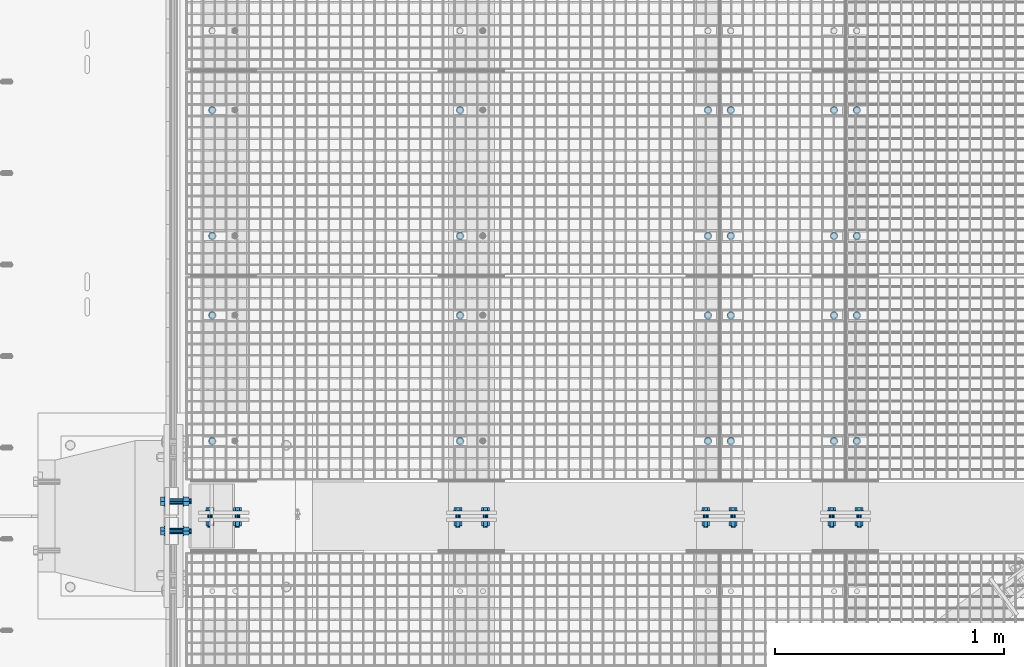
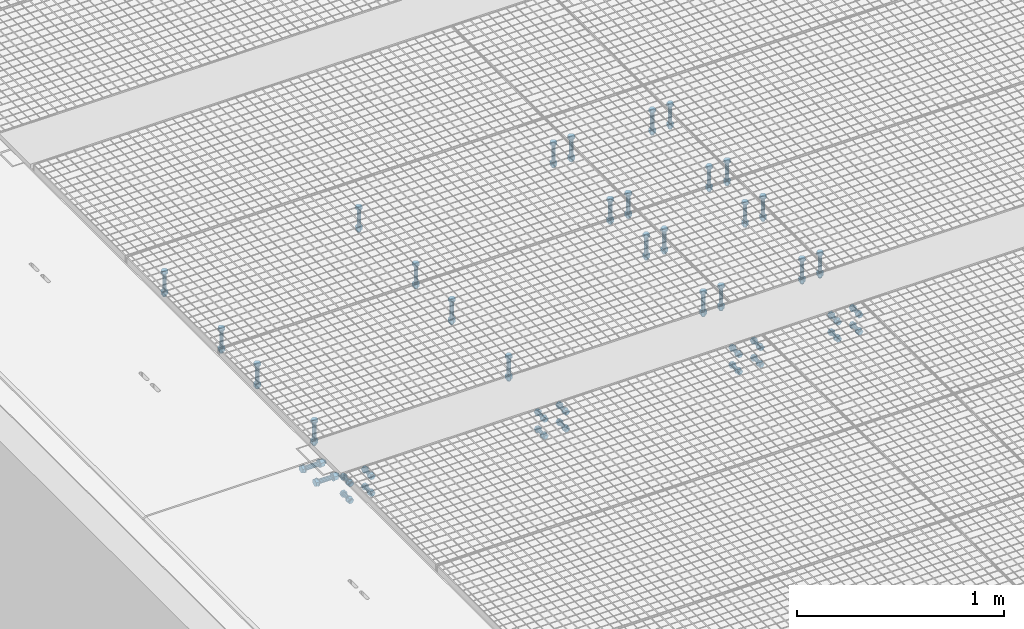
# One storey, part 12 of 1530: 18 mechanical fasteners.
"""IFC2X3 building model written with IfcOpenShell, lengths in millimetres."""

from ifc_helpers import new_model, si_unit, frame, origin_with_axes, place, context, subcontext, project, spatial, faceted_brep, source, transform, mapped, material, type_object, element, save


model = new_model("IFC2X3")

# Units and contexts
model_context = context("Model", 3, precision=1e-05, world=origin_with_axes())
body_context = subcontext(model_context, "Body", "Model", "MODEL_VIEW")
ifc_project = project(units=[si_unit("LENGTHUNIT", "METRE", prefix="MILLI"), si_unit("AREAUNIT", "SQUARE_METRE"), si_unit("VOLUMEUNIT", "CUBIC_METRE"), si_unit("MASSUNIT", "GRAM", prefix="KILO"), si_unit("TIMEUNIT", "SECOND"), si_unit("PLANEANGLEUNIT", "RADIAN"), si_unit("SOLIDANGLEUNIT", "STERADIAN"), si_unit("THERMODYNAMICTEMPERATUREUNIT", "DEGREE_CELSIUS"), si_unit("LUMINOUSINTENSITYUNIT", "LUMEN")], contexts=[model_context])

# Site, building, storey
site_placement = place(None, origin_with_axes())
site = spatial("IfcSite", under=ifc_project, at=site_placement, Name="Brattvåg", CompositionType="ELEMENT")
building_placement = place(site_placement, origin_with_axes())
building = spatial("IfcBuilding", under=site, at=building_placement, Name="Undefined", CompositionType="ELEMENT")
storey_placement = place(building_placement, origin_with_axes())
storey = spatial("IfcBuildingStorey", under=building, at=storey_placement, Name="Undefined", CompositionType="ELEMENT", Elevation=0.0)

# Mechanical fasteners
ifc_material = material(Name="8")
mechanical_fastener_type = type_object("IfcMechanicalFastenerType", Name="Bolt assembly")
shared_shape_1 = source(origin_with_axes(), body_context, "Body", "Brep", [
    faceted_brep([(17.3205080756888, -10.5, 0.0), (8.66025403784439, -10.5, 15.0), (-8.66025403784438, -10.5, 15.0), (-17.3205080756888, -10.5, 2.12115047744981e-15), (-8.66025403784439, -10.5, -15.0), (8.66025403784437, -10.5, -15.0), (8.66025403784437, 2.0, -15.0), (-8.66025403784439, 2.0, -15.0), (-17.3205080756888, 2.0, 2.12115047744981e-15), (-8.66025403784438, 2.0, 15.0), (8.66025403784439, 2.0, 15.0), (17.3205080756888, 2.0, 0.0), (10.0, 2.0, 0.0), (8.66025403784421, 2.0, 5.0000000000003), (4.9999999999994, 2.0, 8.66025403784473), (-1.03633598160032e-12, 2.0, 10.0), (-5.00000000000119, 2.0, 8.6602540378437), (-8.66025403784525, 2.0, 4.99999999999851), (-10.0, 2.0, -2.07267196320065e-12), (-8.66025403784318, 2.0, -5.00000000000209), (-4.99999999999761, 2.0, -8.66025403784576), (3.09790571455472e-12, 2.0, -10.0), (5.00000000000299, 2.0, -8.66025403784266), (8.66025403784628, 2.0, -4.99999999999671), (8.66025403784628, 142.0, -4.99999999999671), (5.00000000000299, 142.0, -8.66025403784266), (3.09790571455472e-12, 142.0, -10.0), (-4.99999999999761, 142.0, -8.66025403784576), (-8.66025403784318, 142.0, -5.00000000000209), (-10.0, 142.0, -2.07267196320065e-12), (-8.66025403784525, 142.0, 4.99999999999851), (-5.00000000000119, 142.0, 8.6602540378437), (-1.03633598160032e-12, 142.0, 10.0), (4.9999999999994, 142.0, 8.66025403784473), (8.66025403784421, 142.0, 5.0000000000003), (10.0, 142.0, 0.0), (18.5, 2.0, 0.0), (16.0214699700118, 2.0, 9.25000000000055), (9.2499999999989, 2.0, 16.0214699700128), (-1.9172215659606e-12, 2.0, 18.5), (-9.25000000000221, 2.0, 16.0214699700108), (-16.0214699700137, 2.0, 9.24999999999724), (-18.5, 2.0, -3.83444313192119e-12), (-16.0214699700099, 2.0, -9.25000000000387), (-9.24999999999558, 2.0, -16.0214699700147), (5.73112557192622e-12, 2.0, -18.5), (9.25000000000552, 2.0, -16.0214699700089), (16.0214699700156, 2.0, -9.24999999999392), (16.0214699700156, 5.0, -9.24999999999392), (9.25000000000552, 5.0, -16.0214699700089), (5.73112557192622e-12, 5.0, -18.5), (-9.24999999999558, 5.0, -16.0214699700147), (-16.0214699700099, 5.0, -9.25000000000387), (-18.5, 5.0, -3.83444313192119e-12), (-16.0214699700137, 5.0, 9.24999999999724), (-9.25000000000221, 5.0, 16.0214699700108), (-1.9172215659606e-12, 5.0, 18.5), (9.2499999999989, 5.0, 16.0214699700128), (16.0214699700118, 5.0, 9.25000000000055), (18.5, 5.0, 0.0), (18.5, 109.998931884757, 0.0), (16.0214699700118, 109.998931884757, 9.25000000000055), (9.2499999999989, 109.998931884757, 16.0214699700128), (-1.9172215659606e-12, 109.998931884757, 18.5), (-9.25000000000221, 109.998931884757, 16.0214699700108), (-16.0214699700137, 109.998931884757, 9.24999999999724), (-18.5, 109.998931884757, -3.83444313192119e-12), (-16.0214699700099, 109.998931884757, -9.25000000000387), (-9.24999999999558, 109.998931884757, -16.0214699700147), (5.73112557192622e-12, 109.998931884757, -18.5), (9.25000000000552, 109.998931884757, -16.0214699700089), (16.0214699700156, 109.998931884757, -9.24999999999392), (16.0214699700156, 112.998931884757, -9.24999999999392), (9.25000000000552, 112.998931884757, -16.0214699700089), (5.73112557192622e-12, 112.998931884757, -18.5), (-9.24999999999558, 112.998931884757, -16.0214699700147), (-16.0214699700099, 112.998931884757, -9.25000000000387), (-18.5, 112.998931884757, -3.83444313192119e-12), (-16.0214699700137, 112.998931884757, 9.24999999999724), (-9.25000000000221, 112.998931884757, 16.0214699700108), (-1.9172215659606e-12, 112.998931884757, 18.5), (9.2499999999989, 112.998931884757, 16.0214699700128), (16.0214699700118, 112.998931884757, 9.25000000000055), (18.5, 112.998931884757, 0.0), (17.3205080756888, 112.998931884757, 0.0), (8.66025403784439, 112.998931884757, 15.0), (-8.66025403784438, 112.998931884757, 15.0), (-17.3205080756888, 112.998931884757, 2.12115047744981e-15), (-8.66025403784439, 112.998931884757, -15.0), (8.66025403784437, 112.998931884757, -15.0), (8.66025403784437, 130.998931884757, -15.0), (-8.66025403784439, 130.998931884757, -15.0), (-17.3205080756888, 130.998931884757, 2.12115047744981e-15), (-8.66025403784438, 130.998931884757, 15.0), (8.66025403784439, 130.998931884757, 15.0), (17.3205080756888, 130.998931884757, 0.0)], [[[0, 1, 2, 3, 4, 5]], [[6, 7, 8, 9, 10, 11]], [[0, 11, 10, 1]], [[1, 10, 9, 2]], [[2, 9, 8, 3]], [[3, 8, 7, 4]], [[4, 7, 6, 5]], [[5, 6, 11, 0]], [[12, 13, 14, 15, 16, 17, 18, 19, 20, 21, 22, 23]], [[24, 25, 26, 27, 28, 29, 30, 31, 32, 33, 34, 35]], [[12, 35, 34, 13]], [[13, 34, 33, 14]], [[14, 33, 32, 15]], [[15, 32, 31, 16]], [[16, 31, 30, 17]], [[17, 30, 29, 18]], [[18, 29, 28, 19]], [[19, 28, 27, 20]], [[20, 27, 26, 21]], [[21, 26, 25, 22]], [[22, 25, 24, 23]], [[23, 24, 35, 12]], [[36, 37, 38, 39, 40, 41, 42, 43, 44, 45, 46, 47]], [[48, 49, 50, 51, 52, 53, 54, 55, 56, 57, 58, 59]], [[36, 59, 58, 37]], [[37, 58, 57, 38]], [[38, 57, 56, 39]], [[39, 56, 55, 40]], [[40, 55, 54, 41]], [[41, 54, 53, 42]], [[42, 53, 52, 43]], [[43, 52, 51, 44]], [[44, 51, 50, 45]], [[45, 50, 49, 46]], [[46, 49, 48, 47]], [[47, 48, 59, 36]], [[60, 61, 62, 63, 64, 65, 66, 67, 68, 69, 70, 71]], [[72, 73, 74, 75, 76, 77, 78, 79, 80, 81, 82, 83]], [[60, 83, 82, 61]], [[61, 82, 81, 62]], [[62, 81, 80, 63]], [[63, 80, 79, 64]], [[64, 79, 78, 65]], [[65, 78, 77, 66]], [[66, 77, 76, 67]], [[67, 76, 75, 68]], [[68, 75, 74, 69]], [[69, 74, 73, 70]], [[70, 73, 72, 71]], [[71, 72, 83, 60]], [[84, 85, 86, 87, 88, 89]], [[90, 91, 92, 93, 94, 95]], [[84, 95, 94, 85]], [[85, 94, 93, 86]], [[86, 93, 92, 87]], [[87, 92, 91, 88]], [[88, 91, 90, 89]], [[89, 90, 95, 84]]]),
])
for number, where, z_axis, x_axis, name in (
    (1, (2956.00477935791, 4224.91931152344, -25.0), (-1.0, 1.99999855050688e-09, 0.0), (0.0, 1.0, 0.0), "Bolt assembly"),
    (2, (2956.00477935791, 3327.91931152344, -25.0), (-1.0, 1.99999855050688e-09, 0.0), (0.0, 1.0, 0.0), "Bolt assembly"),
    (3, (2856.01522064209, 4224.91931152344, -25.0), (-1.0, 1.99999855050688e-09, 0.0), (0.0, 1.0, 0.0), "Bolt assembly"),
    (4, (2405.00477935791, 4224.91931152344, -25.0), (-1.0, 1.99999855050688e-09, 0.0), (0.0, 1.0, 0.0), "Bolt assembly"),
    (5, (2856.01522064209, 3327.91931152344, -25.0), (-1.0, 1.99999855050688e-09, 0.0), (0.0, 1.0, 0.0), "Bolt assembly"),
    (6, (2405.00477935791, 3327.91931152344, -25.0), (-1.0, 1.99999855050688e-09, 0.0), (0.0, 1.0, 0.0), "Bolt assembly"),
    (7, (137.004779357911, 4224.91931152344, -25.0), (-1.0, 1.99999855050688e-09, 0.0), (0.0, 1.0, 0.0), "Bolt assembly"),
    (8, (1221.01192543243, 4224.99, -25.0), (-1.0, 1.99999855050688e-09, 0.0), (0.0, 1.0, 0.0), "Bolt assembly"),
    (9, (2305.01487731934, 4224.9204864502, -25.0), (-1.0, 1.99999855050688e-09, 0.0), (0.0, 1.0, 0.0), "Bolt assembly"),
    (10, (137.004779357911, 3327.91931152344, -25.0), (-1.0, 1.99999855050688e-09, 0.0), (0.0, 1.0, 0.0), "Bolt assembly"),
    (11, (1221.01192543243, 3327.99, -25.0), (-1.0, 1.99999855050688e-09, 0.0), (0.0, 1.0, 0.0), "Bolt assembly"),
    (12, (2305.01487731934, 3327.9204864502, -25.0), (-1.0, 1.99999855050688e-09, 0.0), (0.0, 1.0, 0.0), "Bolt assembly"),
):
    element("IfcMechanicalFastener", number, at=place(storey_placement, frame(where, z_axis=z_axis, x_axis=x_axis)), inside=storey, type_object=mechanical_fastener_type, material=ifc_material, Name=name, NominalDiameter=20.0, NominalLength=140.0, context=body_context, shape_type="MappedRepresentation", body=[
        mapped(shared_shape_1, transform((0.0, 0.0, 0.0))),
        mapped(shared_shape_1, transform((549.999999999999, 0.0, 0.0))),
    ])
shared_shape_2 = source(origin_with_axes(), body_context, "Body", "Brep", [
    faceted_brep([(20.7846096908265, -19.0, 0.0), (10.3923048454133, -19.0, 18.0), (-10.3923048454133, -19.0, 18.0), (-20.7846096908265, -19.0, 2.54538057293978e-15), (-10.3923048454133, -19.0, -18.0), (10.3923048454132, -19.0, -18.0), (10.3923048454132, -4.0, -18.0), (-10.3923048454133, -4.0, -18.0), (-20.7846096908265, -4.0, 2.54538057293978e-15), (-10.3923048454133, -4.0, 18.0), (10.3923048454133, -4.0, 18.0), (20.7846096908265, -4.0, 0.0), (12.0, -4.0, 0.0), (10.3923048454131, -4.0, 6.00000000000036), (5.99999999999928, -4.0, 10.3923048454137), (-1.24360317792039e-12, -4.0, 12.0), (-6.00000000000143, -4.0, 10.3923048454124), (-10.3923048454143, -4.0, 5.99999999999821), (-12.0, -4.0, -2.48720635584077e-12), (-10.3923048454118, -4.0, -6.00000000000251), (-5.99999999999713, -4.0, -10.3923048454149), (3.71748685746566e-12, -4.0, -12.0), (6.00000000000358, -4.0, -10.3923048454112), (10.3923048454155, -4.0, -5.99999999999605), (10.3923048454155, 115.999999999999, -5.99999999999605), (6.00000000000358, 115.999999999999, -10.3923048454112), (3.71748685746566e-12, 115.999999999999, -12.0), (-5.99999999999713, 115.999999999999, -10.3923048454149), (-10.3923048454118, 115.999999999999, -6.00000000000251), (-12.0, 115.999999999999, -2.48720635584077e-12), (-10.3923048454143, 115.999999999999, 5.99999999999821), (-6.00000000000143, 115.999999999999, 10.3923048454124), (-1.24360317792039e-12, 115.999999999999, 12.0), (5.99999999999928, 115.999999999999, 10.3923048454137), (10.3923048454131, 115.999999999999, 6.00000000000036), (12.0, 115.999999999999, 0.0), (22.0, -4.0, 0.0), (19.0525588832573, -4.0, 11.0000000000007), (10.9999999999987, -4.0, 19.0525588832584), (-2.27993915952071e-12, -4.0, 22.0), (-11.0000000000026, -4.0, 19.0525588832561), (-19.0525588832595, -4.0, 10.9999999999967), (-22.0, -4.0, -4.55987831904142e-12), (-19.052558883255, -4.0, -11.0000000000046), (-10.9999999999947, -4.0, -19.0525588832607), (6.81539257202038e-12, -4.0, -22.0), (11.0000000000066, -4.0, -19.0525588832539), (19.0525588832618, -4.0, -10.9999999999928), (19.0525588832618, 0.0, -10.9999999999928), (11.0000000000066, 0.0, -19.0525588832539), (6.81539257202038e-12, 0.0, -22.0), (-10.9999999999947, 0.0, -19.0525588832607), (-19.052558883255, 0.0, -11.0000000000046), (-22.0, 0.0, -4.55987831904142e-12), (-19.0525588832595, 0.0, 10.9999999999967), (-11.0000000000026, 0.0, 19.0525588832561), (-2.27993915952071e-12, 0.0, 22.0), (10.9999999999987, 0.0, 19.0525588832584), (19.0525588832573, 0.0, 11.0000000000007), (22.0, 0.0, 0.0), (22.0, 80.0044371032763, 0.0), (19.0525588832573, 80.0044371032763, 11.0000000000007), (10.9999999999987, 80.0044371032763, 19.0525588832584), (-2.27993915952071e-12, 80.0044371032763, 22.0), (-11.0000000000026, 80.0044371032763, 19.0525588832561), (-19.0525588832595, 80.0044371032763, 10.9999999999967), (-22.0, 80.0044371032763, -4.55987831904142e-12), (-19.052558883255, 80.0044371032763, -11.0000000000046), (-10.9999999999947, 80.0044371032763, -19.0525588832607), (6.81539257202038e-12, 80.0044371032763, -22.0), (11.0000000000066, 80.0044371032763, -19.0525588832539), (19.0525588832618, 80.0044371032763, -10.9999999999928), (19.0525588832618, 84.0044371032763, -10.9999999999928), (11.0000000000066, 84.0044371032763, -19.0525588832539), (6.81539257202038e-12, 84.0044371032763, -22.0), (-10.9999999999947, 84.0044371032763, -19.0525588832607), (-19.052558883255, 84.0044371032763, -11.0000000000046), (-22.0, 84.0044371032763, -4.55987831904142e-12), (-19.0525588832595, 84.0044371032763, 10.9999999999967), (-11.0000000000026, 84.0044371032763, 19.0525588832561), (-2.27993915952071e-12, 84.0044371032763, 22.0), (10.9999999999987, 84.0044371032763, 19.0525588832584), (19.0525588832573, 84.0044371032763, 11.0000000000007), (22.0, 84.0044371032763, 0.0), (20.7846096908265, 84.0044371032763, 0.0), (10.3923048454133, 84.0044371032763, 18.0), (-10.3923048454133, 84.0044371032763, 18.0), (-20.7846096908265, 84.0044371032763, 2.54538057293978e-15), (-10.3923048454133, 84.0044371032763, -18.0), (10.3923048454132, 84.0044371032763, -18.0), (10.3923048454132, 105.504437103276, -18.0), (-10.3923048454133, 105.504437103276, -18.0), (-20.7846096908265, 105.504437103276, 2.54538057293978e-15), (-10.3923048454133, 105.504437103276, 18.0), (10.3923048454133, 105.504437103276, 18.0), (20.7846096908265, 105.504437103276, 0.0)], [[[0, 1, 2, 3, 4, 5]], [[6, 7, 8, 9, 10, 11]], [[0, 11, 10, 1]], [[1, 10, 9, 2]], [[2, 9, 8, 3]], [[3, 8, 7, 4]], [[4, 7, 6, 5]], [[5, 6, 11, 0]], [[12, 13, 14, 15, 16, 17, 18, 19, 20, 21, 22, 23]], [[24, 25, 26, 27, 28, 29, 30, 31, 32, 33, 34, 35]], [[12, 35, 34, 13]], [[13, 34, 33, 14]], [[14, 33, 32, 15]], [[15, 32, 31, 16]], [[16, 31, 30, 17]], [[17, 30, 29, 18]], [[18, 29, 28, 19]], [[19, 28, 27, 20]], [[20, 27, 26, 21]], [[21, 26, 25, 22]], [[22, 25, 24, 23]], [[23, 24, 35, 12]], [[36, 37, 38, 39, 40, 41, 42, 43, 44, 45, 46, 47]], [[48, 49, 50, 51, 52, 53, 54, 55, 56, 57, 58, 59]], [[36, 59, 58, 37]], [[37, 58, 57, 38]], [[38, 57, 56, 39]], [[39, 56, 55, 40]], [[40, 55, 54, 41]], [[41, 54, 53, 42]], [[42, 53, 52, 43]], [[43, 52, 51, 44]], [[44, 51, 50, 45]], [[45, 50, 49, 46]], [[46, 49, 48, 47]], [[47, 48, 59, 36]], [[60, 61, 62, 63, 64, 65, 66, 67, 68, 69, 70, 71]], [[72, 73, 74, 75, 76, 77, 78, 79, 80, 81, 82, 83]], [[60, 83, 82, 61]], [[61, 82, 81, 62]], [[62, 81, 80, 63]], [[63, 80, 79, 64]], [[64, 79, 78, 65]], [[65, 78, 77, 66]], [[66, 77, 76, 67]], [[67, 76, 75, 68]], [[68, 75, 74, 69]], [[69, 74, 73, 70]], [[70, 73, 72, 71]], [[71, 72, 83, 60]], [[84, 85, 86, 87, 88, 89]], [[90, 91, 92, 93, 94, 95]], [[84, 95, 94, 85]], [[85, 94, 93, 86]], [[86, 93, 92, 87]], [[87, 92, 91, 88]], [[88, 91, 90, 89]], [[89, 90, 95, 84]]]),
    faceted_brep([(13.0, 0.0999999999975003, 0.0), (11.2583302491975, 0.0999999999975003, 6.50000000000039), (6.49999999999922, 0.0999999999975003, 11.2583302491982), (-1.34723677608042e-12, 0.0999999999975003, 13.0), (-6.50000000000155, 0.0999999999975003, 11.2583302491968), (-11.2583302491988, 0.0999999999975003, 6.49999999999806), (-13.0, 0.0999999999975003, -2.69447355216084e-12), (-11.2583302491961, 0.0999999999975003, -6.50000000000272), (-6.4999999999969, 0.0999999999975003, -11.2583302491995), (4.02727742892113e-12, 0.0999999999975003, -13.0), (6.50000000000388, 0.0999999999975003, -11.2583302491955), (11.2583302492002, 0.0999999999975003, -6.49999999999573), (11.2583302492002, 20.0999999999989, -6.49999999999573), (6.50000000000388, 20.0999999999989, -11.2583302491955), (4.02727742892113e-12, 20.0999999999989, -13.0), (-6.4999999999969, 20.0999999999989, -11.2583302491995), (-11.2583302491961, 20.0999999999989, -6.50000000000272), (-13.0, 20.0999999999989, -2.69447355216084e-12), (-11.2583302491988, 20.0999999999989, 6.49999999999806), (-6.50000000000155, 20.0999999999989, 11.2583302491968), (-1.34723677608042e-12, 20.0999999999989, 13.0), (6.49999999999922, 20.0999999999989, 11.2583302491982), (11.2583302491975, 20.0999999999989, 6.50000000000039), (13.0, 20.0999999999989, 0.0), (13.0, 20.0048739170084, 0.0), (11.2583302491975, 20.0048739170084, 6.50000000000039), (6.49999999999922, 20.0048739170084, 11.2583302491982), (-1.34723677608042e-12, 20.0048739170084, 13.0), (-6.50000000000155, 20.0048739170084, 11.2583302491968), (-11.2583302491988, 20.0048739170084, 6.49999999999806), (-13.0, 20.0048739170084, -2.69447355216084e-12), (-11.2583302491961, 20.0048739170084, -6.50000000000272), (-6.4999999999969, 20.0048739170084, -11.2583302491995), (4.02727742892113e-12, 20.0048739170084, -13.0), (6.50000000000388, 20.0048739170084, -11.2583302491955), (11.2583302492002, 20.0048739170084, -6.49999999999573), (11.2583302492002, 50.0048739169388, -6.49999999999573), (6.50000000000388, 50.0048739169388, -11.2583302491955), (4.02727742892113e-12, 50.0048739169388, -13.0), (-6.4999999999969, 50.0048739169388, -11.2583302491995), (-11.2583302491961, 50.0048739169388, -6.50000000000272), (-13.0, 50.0048739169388, -2.69447355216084e-12), (-11.2583302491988, 50.0048739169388, 6.49999999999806), (-6.50000000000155, 50.0048739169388, 11.2583302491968), (-1.34723677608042e-12, 50.0048739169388, 13.0), (6.49999999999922, 50.0048739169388, 11.2583302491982), (11.2583302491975, 50.0048739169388, 6.50000000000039), (13.0, 50.0048739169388, 0.0), (13.0, 49.9044371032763, 0.0), (11.2583302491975, 49.9044371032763, 6.50000000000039), (6.49999999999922, 49.9044371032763, 11.2583302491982), (-1.34723677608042e-12, 49.9044371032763, 13.0), (-6.50000000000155, 49.9044371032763, 11.2583302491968), (-11.2583302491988, 49.9044371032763, 6.49999999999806), (-13.0, 49.9044371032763, -2.69447355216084e-12), (-11.2583302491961, 49.9044371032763, -6.50000000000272), (-6.4999999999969, 49.9044371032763, -11.2583302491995), (4.02727742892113e-12, 49.9044371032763, -13.0), (6.50000000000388, 49.9044371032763, -11.2583302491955), (11.2583302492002, 49.9044371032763, -6.49999999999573), (11.2583302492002, 80.0044371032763, -6.49999999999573), (6.50000000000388, 80.0044371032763, -11.2583302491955), (4.02727742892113e-12, 80.0044371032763, -13.0), (-6.4999999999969, 80.0044371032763, -11.2583302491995), (-11.2583302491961, 80.0044371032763, -6.50000000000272), (-13.0, 80.0044371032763, -2.69447355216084e-12), (-11.2583302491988, 80.0044371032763, 6.49999999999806), (-6.50000000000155, 80.0044371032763, 11.2583302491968), (-1.34723677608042e-12, 80.0044371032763, 13.0), (6.49999999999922, 80.0044371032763, 11.2583302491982), (11.2583302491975, 80.0044371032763, 6.50000000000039), (13.0, 80.0044371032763, 0.0)], [[[0, 1, 2, 3, 4, 5, 6, 7, 8, 9, 10, 11]], [[12, 13, 14, 15, 16, 17, 18, 19, 20, 21, 22, 23]], [[0, 23, 22, 1]], [[1, 22, 21, 2]], [[2, 21, 20, 3]], [[3, 20, 19, 4]], [[4, 19, 18, 5]], [[5, 18, 17, 6]], [[6, 17, 16, 7]], [[7, 16, 15, 8]], [[8, 15, 14, 9]], [[9, 14, 13, 10]], [[10, 13, 12, 11]], [[11, 12, 23, 0]], [[24, 25, 26, 27, 28, 29, 30, 31, 32, 33, 34, 35]], [[36, 37, 38, 39, 40, 41, 42, 43, 44, 45, 46, 47]], [[24, 47, 46, 25]], [[25, 46, 45, 26]], [[26, 45, 44, 27]], [[27, 44, 43, 28]], [[28, 43, 42, 29]], [[29, 42, 41, 30]], [[30, 41, 40, 31]], [[31, 40, 39, 32]], [[32, 39, 38, 33]], [[33, 38, 37, 34]], [[34, 37, 36, 35]], [[35, 36, 47, 24]], [[48, 49, 50, 51, 52, 53, 54, 55, 56, 57, 58, 59]], [[60, 61, 62, 63, 64, 65, 66, 67, 68, 69, 70, 71]], [[48, 71, 70, 49]], [[49, 70, 69, 50]], [[50, 69, 68, 51]], [[51, 68, 67, 52]], [[52, 67, 66, 53]], [[53, 66, 65, 54]], [[54, 65, 64, 55]], [[55, 64, 63, 56]], [[56, 63, 62, 57]], [[57, 62, 61, 58]], [[58, 61, 60, 59]], [[59, 60, 71, 48]]]),
])
for number, where, z_axis, x_axis, name in (
    (13, (-70.0046011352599, 3064.99743433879, -75.0011876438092), (0.0, 0.999999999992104, 3.97399998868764e-06), (0.0, -3.97399998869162e-06, 0.999999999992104), "Bolt assembly"),
    (14, (-70.0046011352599, 2934.99743433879, -75.0011876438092), (0.0, 0.999999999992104, 3.97399998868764e-06), (0.0, -3.97399998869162e-06, 0.999999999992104), "Bolt assembly"),
):
    element("IfcMechanicalFastener", number, at=place(storey_placement, frame(where, z_axis=z_axis, x_axis=x_axis)), inside=storey, type_object=mechanical_fastener_type, material=ifc_material, Name=name, NominalDiameter=24.0, NominalLength=120.0, context=body_context, shape_type="MappedRepresentation", body=[
        mapped(shared_shape_2, transform((0.0, 0.0, 0.0))),
    ])
shared_shape_3 = source(origin_with_axes(), body_context, "Body", "Brep", [
    faceted_brep([(17.3205080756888, -15.5000000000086, 0.0), (8.66025403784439, -15.5000000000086, 15.0), (-8.66025403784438, -15.5000000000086, 15.0), (-17.3205080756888, -15.5000000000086, 2.12115047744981e-15), (-8.66025403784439, -15.5000000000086, -15.0), (8.66025403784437, -15.5000000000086, -15.0), (8.66025403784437, -3.00000000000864, -15.0), (-8.66025403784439, -3.00000000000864, -15.0), (-17.3205080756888, -3.00000000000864, 2.12115047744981e-15), (-8.66025403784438, -3.00000000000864, 15.0), (8.66025403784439, -3.00000000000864, 15.0), (17.3205080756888, -3.00000000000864, 0.0), (10.0, -3.00000000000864, 0.0), (8.66025403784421, -3.00000000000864, 5.0000000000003), (4.9999999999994, -3.00000000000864, 8.66025403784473), (-1.03633598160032e-12, -3.00000000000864, 10.0), (-5.00000000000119, -3.00000000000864, 8.6602540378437), (-8.66025403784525, -3.00000000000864, 4.99999999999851), (-10.0, -3.00000000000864, -2.07267196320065e-12), (-8.66025403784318, -3.00000000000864, -5.00000000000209), (-4.99999999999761, -3.00000000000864, -8.66025403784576), (3.09790571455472e-12, -3.00000000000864, -10.0), (5.00000000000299, -3.00000000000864, -8.66025403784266), (8.66025403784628, -3.00000000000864, -4.99999999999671), (8.66025403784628, 72.0, -4.99999999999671), (5.00000000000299, 72.0, -8.66025403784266), (3.09790571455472e-12, 72.0, -10.0), (-4.99999999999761, 72.0, -8.66025403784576), (-8.66025403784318, 72.0, -5.00000000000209), (-10.0, 72.0, -2.07267196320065e-12), (-8.66025403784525, 72.0, 4.99999999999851), (-5.00000000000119, 72.0, 8.6602540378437), (-1.03633598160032e-12, 72.0, 10.0), (4.9999999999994, 72.0, 8.66025403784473), (8.66025403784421, 72.0, 5.0000000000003), (10.0, 72.0, 0.0), (18.5, -3.00000000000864, 0.0), (16.0214699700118, -3.00000000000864, 9.25000000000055), (9.2499999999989, -3.00000000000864, 16.0214699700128), (-1.9172215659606e-12, -3.00000000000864, 18.5), (-9.25000000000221, -3.00000000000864, 16.0214699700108), (-16.0214699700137, -3.00000000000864, 9.24999999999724), (-18.5, -3.00000000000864, -3.83444313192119e-12), (-16.0214699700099, -3.00000000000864, -9.25000000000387), (-9.24999999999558, -3.00000000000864, -16.0214699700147), (5.73112557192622e-12, -3.00000000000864, -18.5), (9.25000000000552, -3.00000000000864, -16.0214699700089), (16.0214699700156, -3.00000000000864, -9.24999999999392), (16.0214699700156, -8.64019966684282e-12, -9.24999999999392), (9.25000000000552, -8.64019966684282e-12, -16.0214699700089), (5.73112557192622e-12, -8.64019966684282e-12, -18.5), (-9.24999999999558, -8.64019966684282e-12, -16.0214699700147), (-16.0214699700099, -8.64019966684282e-12, -9.25000000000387), (-18.5, -8.64019966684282e-12, -3.83444313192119e-12), (-16.0214699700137, -8.64019966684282e-12, 9.24999999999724), (-9.25000000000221, -8.64019966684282e-12, 16.0214699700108), (-1.9172215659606e-12, -8.64019966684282e-12, 18.5), (9.2499999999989, -8.64019966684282e-12, 16.0214699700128), (16.0214699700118, -8.64019966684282e-12, 9.25000000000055), (18.5, -8.64019966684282e-12, 0.0), (18.5, 46.000061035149, 0.0), (16.0214699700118, 46.000061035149, 9.25000000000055), (9.2499999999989, 46.000061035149, 16.0214699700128), (-1.9172215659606e-12, 46.000061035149, 18.5), (-9.25000000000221, 46.000061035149, 16.0214699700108), (-16.0214699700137, 46.000061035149, 9.24999999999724), (-18.5, 46.000061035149, -3.83444313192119e-12), (-16.0214699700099, 46.000061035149, -9.25000000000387), (-9.24999999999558, 46.000061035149, -16.0214699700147), (5.73112557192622e-12, 46.000061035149, -18.5), (9.25000000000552, 46.000061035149, -16.0214699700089), (16.0214699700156, 46.000061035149, -9.24999999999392), (16.0214699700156, 49.000061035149, -9.24999999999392), (9.25000000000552, 49.000061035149, -16.0214699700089), (5.73112557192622e-12, 49.000061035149, -18.5), (-9.24999999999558, 49.000061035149, -16.0214699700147), (-16.0214699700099, 49.000061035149, -9.25000000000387), (-18.5, 49.000061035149, -3.83444313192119e-12), (-16.0214699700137, 49.000061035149, 9.24999999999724), (-9.25000000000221, 49.000061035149, 16.0214699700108), (-1.9172215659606e-12, 49.000061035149, 18.5), (9.2499999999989, 49.000061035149, 16.0214699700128), (16.0214699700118, 49.000061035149, 9.25000000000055), (18.5, 49.000061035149, 0.0), (17.3205080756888, 49.000061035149, 0.0), (8.66025403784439, 49.000061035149, 15.0), (-8.66025403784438, 49.000061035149, 15.0), (-17.3205080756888, 49.000061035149, 2.12115047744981e-15), (-8.66025403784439, 49.000061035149, -15.0), (8.66025403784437, 49.000061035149, -15.0), (8.66025403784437, 67.000061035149, -15.0), (-8.66025403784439, 67.000061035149, -15.0), (-17.3205080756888, 67.000061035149, 2.12115047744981e-15), (-8.66025403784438, 67.000061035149, 15.0), (8.66025403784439, 67.000061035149, 15.0), (17.3205080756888, 67.000061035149, 0.0)], [[[0, 1, 2, 3, 4, 5]], [[6, 7, 8, 9, 10, 11]], [[0, 11, 10, 1]], [[1, 10, 9, 2]], [[2, 9, 8, 3]], [[3, 8, 7, 4]], [[4, 7, 6, 5]], [[5, 6, 11, 0]], [[12, 13, 14, 15, 16, 17, 18, 19, 20, 21, 22, 23]], [[24, 25, 26, 27, 28, 29, 30, 31, 32, 33, 34, 35]], [[12, 35, 34, 13]], [[13, 34, 33, 14]], [[14, 33, 32, 15]], [[15, 32, 31, 16]], [[16, 31, 30, 17]], [[17, 30, 29, 18]], [[18, 29, 28, 19]], [[19, 28, 27, 20]], [[20, 27, 26, 21]], [[21, 26, 25, 22]], [[22, 25, 24, 23]], [[23, 24, 35, 12]], [[36, 37, 38, 39, 40, 41, 42, 43, 44, 45, 46, 47]], [[48, 49, 50, 51, 52, 53, 54, 55, 56, 57, 58, 59]], [[36, 59, 58, 37]], [[37, 58, 57, 38]], [[38, 57, 56, 39]], [[39, 56, 55, 40]], [[40, 55, 54, 41]], [[41, 54, 53, 42]], [[42, 53, 52, 43]], [[43, 52, 51, 44]], [[44, 51, 50, 45]], [[45, 50, 49, 46]], [[46, 49, 48, 47]], [[47, 48, 59, 36]], [[60, 61, 62, 63, 64, 65, 66, 67, 68, 69, 70, 71]], [[72, 73, 74, 75, 76, 77, 78, 79, 80, 81, 82, 83]], [[60, 83, 82, 61]], [[61, 82, 81, 62]], [[62, 81, 80, 63]], [[63, 80, 79, 64]], [[64, 79, 78, 65]], [[65, 78, 77, 66]], [[66, 77, 76, 67]], [[67, 76, 75, 68]], [[68, 75, 74, 69]], [[69, 74, 73, 70]], [[70, 73, 72, 71]], [[71, 72, 83, 60]], [[84, 85, 86, 87, 88, 89]], [[90, 91, 92, 93, 94, 95]], [[84, 95, 94, 85]], [[85, 94, 93, 86]], [[86, 93, 92, 87]], [[87, 92, 91, 88]], [[88, 91, 90, 89]], [[89, 90, 95, 84]]]),
    faceted_brep([(11.0, 0.1, 0.0), (9.52627944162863, 0.1, 5.50000000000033), (5.49999999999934, 0.1, 9.5262794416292), (-1.13996957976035e-12, 0.1, 11.0), (-5.50000000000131, 0.1, 9.52627944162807), (-9.52627944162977, 0.1, 5.49999999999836), (-11.0, 0.1, -2.27993915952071e-12), (-9.5262794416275, 0.1, -5.5000000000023), (-5.49999999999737, 0.1, -9.52627944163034), (3.40769628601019e-12, 0.1, -11.0), (5.50000000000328, 0.1, -9.52627944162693), (9.52627944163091, 0.1, -5.49999999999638), (9.52627944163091, 15.1, -5.49999999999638), (5.50000000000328, 15.1, -9.52627944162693), (3.40769628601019e-12, 15.1, -11.0), (-5.49999999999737, 15.1, -9.52627944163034), (-9.5262794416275, 15.1, -5.5000000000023), (-11.0, 15.1, -2.27993915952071e-12), (-9.52627944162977, 15.1, 5.49999999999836), (-5.50000000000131, 15.1, 9.52627944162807), (-1.13996957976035e-12, 15.1, 11.0), (5.49999999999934, 15.1, 9.5262794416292), (9.52627944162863, 15.1, 5.50000000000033), (11.0, 15.1, 0.0), (11.0, 15.0015563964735, 0.0), (9.52627944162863, 15.0015563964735, 5.50000000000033), (5.49999999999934, 15.0015563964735, 9.5262794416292), (-1.13996957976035e-12, 15.0015563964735, 11.0), (-5.50000000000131, 15.0015563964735, 9.52627944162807), (-9.52627944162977, 15.0015563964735, 5.49999999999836), (-11.0, 15.0015563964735, -2.27993915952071e-12), (-9.5262794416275, 15.0015563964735, -5.5000000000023), (-5.49999999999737, 15.0015563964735, -9.52627944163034), (3.40769628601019e-12, 15.0015563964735, -11.0), (5.50000000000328, 15.0015563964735, -9.52627944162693), (9.52627944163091, 15.0015563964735, -5.49999999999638), (9.52627944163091, 31.0015563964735, -5.49999999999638), (5.50000000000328, 31.0015563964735, -9.52627944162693), (3.40769628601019e-12, 31.0015563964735, -11.0), (-5.49999999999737, 31.0015563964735, -9.52627944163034), (-9.5262794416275, 31.0015563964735, -5.5000000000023), (-11.0, 31.0015563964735, -2.27993915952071e-12), (-9.52627944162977, 31.0015563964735, 5.49999999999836), (-5.50000000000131, 31.0015563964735, 9.52627944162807), (-1.13996957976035e-12, 31.0015563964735, 11.0), (5.49999999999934, 31.0015563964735, 9.5262794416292), (9.52627944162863, 31.0015563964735, 5.50000000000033), (11.0, 31.0015563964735, 0.0), (11.0, 30.900061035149, 0.0), (9.52627944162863, 30.900061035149, 5.50000000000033), (5.49999999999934, 30.900061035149, 9.5262794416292), (-1.13996957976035e-12, 30.900061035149, 11.0), (-5.50000000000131, 30.900061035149, 9.52627944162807), (-9.52627944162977, 30.900061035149, 5.49999999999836), (-11.0, 30.900061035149, -2.27993915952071e-12), (-9.5262794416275, 30.900061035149, -5.5000000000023), (-5.49999999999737, 30.900061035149, -9.52627944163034), (3.40769628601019e-12, 30.900061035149, -11.0), (5.50000000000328, 30.900061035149, -9.52627944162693), (9.52627944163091, 30.900061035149, -5.49999999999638), (9.52627944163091, 46.000061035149, -5.49999999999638), (5.50000000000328, 46.000061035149, -9.52627944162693), (3.40769628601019e-12, 46.000061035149, -11.0), (-5.49999999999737, 46.000061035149, -9.52627944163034), (-9.5262794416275, 46.000061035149, -5.5000000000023), (-11.0, 46.000061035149, -2.27993915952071e-12), (-9.52627944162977, 46.000061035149, 5.49999999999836), (-5.50000000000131, 46.000061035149, 9.52627944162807), (-1.13996957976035e-12, 46.000061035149, 11.0), (5.49999999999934, 46.000061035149, 9.5262794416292), (9.52627944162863, 46.000061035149, 5.50000000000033), (11.0, 46.000061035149, 0.0)], [[[0, 1, 2, 3, 4, 5, 6, 7, 8, 9, 10, 11]], [[12, 13, 14, 15, 16, 17, 18, 19, 20, 21, 22, 23]], [[0, 23, 22, 1]], [[1, 22, 21, 2]], [[2, 21, 20, 3]], [[3, 20, 19, 4]], [[4, 19, 18, 5]], [[5, 18, 17, 6]], [[6, 17, 16, 7]], [[7, 16, 15, 8]], [[8, 15, 14, 9]], [[9, 14, 13, 10]], [[10, 13, 12, 11]], [[11, 12, 23, 0]], [[24, 25, 26, 27, 28, 29, 30, 31, 32, 33, 34, 35]], [[36, 37, 38, 39, 40, 41, 42, 43, 44, 45, 46, 47]], [[24, 47, 46, 25]], [[25, 46, 45, 26]], [[26, 45, 44, 27]], [[27, 44, 43, 28]], [[28, 43, 42, 29]], [[29, 42, 41, 30]], [[30, 41, 40, 31]], [[31, 40, 39, 32]], [[32, 39, 38, 33]], [[33, 38, 37, 34]], [[34, 37, 36, 35]], [[35, 36, 47, 24]], [[48, 49, 50, 51, 52, 53, 54, 55, 56, 57, 58, 59]], [[60, 61, 62, 63, 64, 65, 66, 67, 68, 69, 70, 71]], [[48, 71, 70, 49]], [[49, 70, 69, 50]], [[50, 69, 68, 51]], [[51, 68, 67, 52]], [[52, 67, 66, 53]], [[53, 66, 65, 54]], [[54, 65, 64, 55]], [[55, 64, 63, 56]], [[56, 63, 62, 57]], [[57, 62, 61, 58]], [[58, 61, 60, 59]], [[59, 60, 71, 48]]]),
])
for number, where, z_axis, x_axis, name in (
    (15, (2966.00196838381, 3023.00155639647, -219.998836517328), (0.0, 0.0, 1.0), (-1.0, 1.99999855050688e-09, 0.0), "Bolt assembly"),
    (16, (2415.00196838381, 3023.00155639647, -219.998836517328), (0.0, 0.0, 1.0), (-1.0, 1.99999855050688e-09, 0.0), "Bolt assembly"),
    (17, (1331.00196838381, 3023.00155639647, -219.998836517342), (0.0, 0.0, 1.0), (-1.0, 1.99999855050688e-09, 0.0), "Bolt assembly"),
    (18, (247.001968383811, 3023.00155639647, -219.998836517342), (0.0, 0.0, 1.0), (-1.0, 1.99999855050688e-09, 0.0), "Bolt assembly"),
):
    element("IfcMechanicalFastener", number, at=place(storey_placement, frame(where, z_axis=z_axis, x_axis=x_axis)), inside=storey, type_object=mechanical_fastener_type, material=ifc_material, Name=name, NominalDiameter=20.0, NominalLength=75.0, context=body_context, shape_type="MappedRepresentation", body=[
        mapped(shared_shape_3, transform((0.0, 0.0, -50.0))),
        mapped(shared_shape_3, transform((120.0, 0.0, -50.0))),
        mapped(shared_shape_3, transform((0.0, 0.0, 50.0))),
        mapped(shared_shape_3, transform((120.0, 0.0, 50.0))),
    ])

save(model, "model.ifc")
